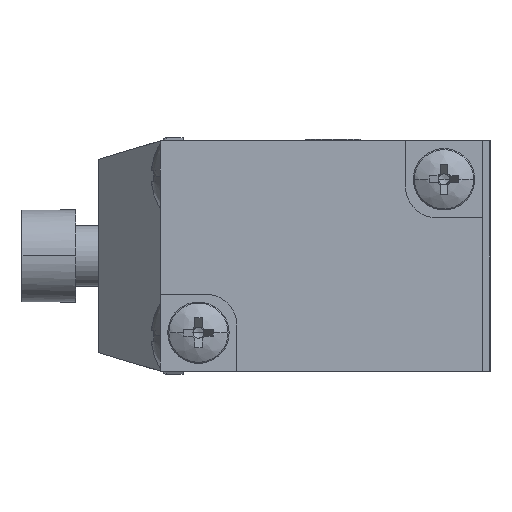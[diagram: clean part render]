
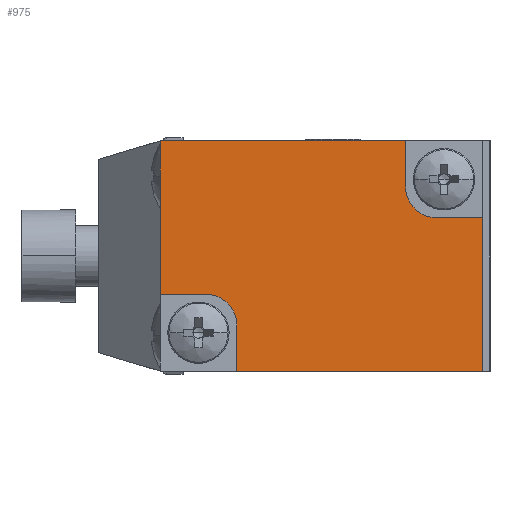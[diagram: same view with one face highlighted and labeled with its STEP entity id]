
A CAD part, left-side view. The second image highlights one B-rep face of the part: STEP entity #975.
In plain terms, the highlighted planar face has unit normal (-1, 0, 0).
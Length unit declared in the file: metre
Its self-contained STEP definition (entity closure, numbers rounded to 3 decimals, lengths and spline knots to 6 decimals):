
#42 = ORIENTED_EDGE ( 'NONE', *, *, #6886, .F. ) ;
#376 = CARTESIAN_POINT ( 'NONE',  ( -0.009, 0.016, 0. ) ) ;
#431 = DIRECTION ( 'NONE',  ( 0., 0., 1. ) ) ;
#451 = ORIENTED_EDGE ( 'NONE', *, *, #11279, .T. ) ;
#494 = VERTEX_POINT ( 'NONE', #7802 ) ;
#728 = EDGE_CURVE ( 'NONE', #4021, #8693, #1606, .T. ) ;
#975 = ADVANCED_FACE ( 'NONE', ( #8680 ), #2538, .F. ) ;
#989 = VERTEX_POINT ( 'NONE', #2178 ) ;
#1463 = ORIENTED_EDGE ( 'NONE', *, *, #5863, .T. ) ;
#1488 = CARTESIAN_POINT ( 'NONE',  ( -0.009, 0., 0.0075 ) ) ;
#1534 = LINE ( 'NONE', #376, #6499 ) ;
#1606 = LINE ( 'NONE', #10263, #5966 ) ;
#1609 = AXIS2_PLACEMENT_3D ( 'NONE', #3735, #3794, #3812 ) ;
#1813 = EDGE_CURVE ( 'NONE', #8560, #2256, #3492, .T. ) ;
#1876 = VECTOR ( 'NONE', #2618, 1. ) ;
#1977 = CARTESIAN_POINT ( 'NONE',  ( -0.009, 0.005, 0.006 ) ) ;
#2178 = CARTESIAN_POINT ( 'NONE',  ( -0.009, 0.021, -0.0025 ) ) ;
#2245 = VECTOR ( 'NONE', #3530, 1. ) ;
#2256 = VERTEX_POINT ( 'NONE', #9038 ) ;
#2313 = AXIS2_PLACEMENT_3D ( 'NONE', #1488, #2807, #2852 ) ;
#2538 = PLANE ( 'NONE',  #2313 ) ;
#2618 = DIRECTION ( 'NONE',  ( 0., 0., -1. ) ) ;
#2696 = VERTEX_POINT ( 'NONE', #6660 ) ;
#2736 = DIRECTION ( 'NONE',  ( 0., 0., 1. ) ) ;
#2807 = DIRECTION ( 'NONE',  ( 1., 0., 0. ) ) ;
#2852 = DIRECTION ( 'NONE',  ( 0., 0., -1. ) ) ;
#2984 = VERTEX_POINT ( 'NONE', #8625 ) ;
#3385 = CARTESIAN_POINT ( 'NONE',  ( -0.009, 0., 0.0025 ) ) ;
#3492 = CIRCLE ( 'NONE', #1609, 0.002 ) ;
#3522 = CARTESIAN_POINT ( 'NONE',  ( -0.009, 0.0105, -0.0075 ) ) ;
#3530 = DIRECTION ( 'NONE',  ( 0., 1., 0. ) ) ;
#3659 = ORIENTED_EDGE ( 'NONE', *, *, #6820, .T. ) ;
#3689 = ORIENTED_EDGE ( 'NONE', *, *, #1813, .F. ) ;
#3735 = CARTESIAN_POINT ( 'NONE',  ( -0.009, 0.018, -0.0045 ) ) ;
#3794 = DIRECTION ( 'NONE',  ( -1., 0., 0. ) ) ;
#3812 = DIRECTION ( 'NONE',  ( 0., 0., -1. ) ) ;
#3935 = ORIENTED_EDGE ( 'NONE', *, *, #8910, .F. ) ;
#3942 = EDGE_CURVE ( 'NONE', #10630, #989, #11804, .T. ) ;
#4021 = VERTEX_POINT ( 'NONE', #10227 ) ;
#4100 = CARTESIAN_POINT ( 'NONE',  ( -0.009, 0.021, 0.0075 ) ) ;
#4606 = VECTOR ( 'NONE', #11074, 1. ) ;
#4608 = LINE ( 'NONE', #3522, #11184 ) ;
#4741 = CIRCLE ( 'NONE', #7901, 0.002 ) ;
#4892 = LINE ( 'NONE', #10673, #4606 ) ;
#5530 = CARTESIAN_POINT ( 'NONE',  ( -0.009, 0.003, 0.0045 ) ) ;
#5726 = ORIENTED_EDGE ( 'NONE', *, *, #8779, .F. ) ;
#5757 = LINE ( 'NONE', #1977, #6952 ) ;
#5863 = EDGE_CURVE ( 'NONE', #494, #7415, #5757, .T. ) ;
#5966 = VECTOR ( 'NONE', #10387, 1. ) ;
#6480 = DIRECTION ( 'NONE',  ( 0., 0., -1. ) ) ;
#6499 = VECTOR ( 'NONE', #431, 1. ) ;
#6541 = EDGE_LOOP ( 'NONE', ( #3659, #3935, #1463, #451, #7478, #10428, #3689, #42, #5726, #7204 ) ) ;
#6660 = CARTESIAN_POINT ( 'NONE',  ( -0.009, 0.016, -0.0075 ) ) ;
#6820 = EDGE_CURVE ( 'NONE', #8693, #2984, #4892, .T. ) ;
#6886 = EDGE_CURVE ( 'NONE', #2696, #8560, #1534, .T. ) ;
#6908 = CARTESIAN_POINT ( 'NONE',  ( -0.009, 0.016, -0.0045 ) ) ;
#6952 = VECTOR ( 'NONE', #2736, 1. ) ;
#7204 = ORIENTED_EDGE ( 'NONE', *, *, #728, .T. ) ;
#7370 = DIRECTION ( 'NONE',  ( 0., 1., 0. ) ) ;
#7415 = VERTEX_POINT ( 'NONE', #8578 ) ;
#7478 = ORIENTED_EDGE ( 'NONE', *, *, #3942, .T. ) ;
#7802 = CARTESIAN_POINT ( 'NONE',  ( -0.009, 0.005, 0.0045 ) ) ;
#7901 = AXIS2_PLACEMENT_3D ( 'NONE', #5530, #12073, #6480 ) ;
#8432 = LINE ( 'NONE', #9246, #10572 ) ;
#8560 = VERTEX_POINT ( 'NONE', #6908 ) ;
#8578 = CARTESIAN_POINT ( 'NONE',  ( -0.009, 0.005, 0.0075 ) ) ;
#8625 = CARTESIAN_POINT ( 'NONE',  ( -0.009, 0.003, 0.0025 ) ) ;
#8680 = FACE_OUTER_BOUND ( 'NONE', #6541, .T. ) ;
#8693 = VERTEX_POINT ( 'NONE', #3385 ) ;
#8779 = EDGE_CURVE ( 'NONE', #4021, #2696, #4608, .T. ) ;
#8910 = EDGE_CURVE ( 'NONE', #494, #2984, #4741, .T. ) ;
#9038 = CARTESIAN_POINT ( 'NONE',  ( -0.009, 0.018, -0.0025 ) ) ;
#9155 = DIRECTION ( 'NONE',  ( 0., 1., 0. ) ) ;
#9191 = CARTESIAN_POINT ( 'NONE',  ( -0.009, 0.021, 0. ) ) ;
#9246 = CARTESIAN_POINT ( 'NONE',  ( -0.009, 0.0105, 0.0075 ) ) ;
#9721 = LINE ( 'NONE', #10082, #2245 ) ;
#10082 = CARTESIAN_POINT ( 'NONE',  ( -0.009, 0.0105, -0.0025 ) ) ;
#10227 = CARTESIAN_POINT ( 'NONE',  ( -0.009, 0., -0.0075 ) ) ;
#10263 = CARTESIAN_POINT ( 'NONE',  ( -0.009, 0., 0. ) ) ;
#10387 = DIRECTION ( 'NONE',  ( 0., 0., 1. ) ) ;
#10428 = ORIENTED_EDGE ( 'NONE', *, *, #10845, .F. ) ;
#10572 = VECTOR ( 'NONE', #7370, 1. ) ;
#10630 = VERTEX_POINT ( 'NONE', #4100 ) ;
#10673 = CARTESIAN_POINT ( 'NONE',  ( -0.009, 0.0015, 0.0025 ) ) ;
#10845 = EDGE_CURVE ( 'NONE', #2256, #989, #9721, .T. ) ;
#11074 = DIRECTION ( 'NONE',  ( 0., 1., 0. ) ) ;
#11184 = VECTOR ( 'NONE', #9155, 1. ) ;
#11279 = EDGE_CURVE ( 'NONE', #7415, #10630, #8432, .T. ) ;
#11804 = LINE ( 'NONE', #9191, #1876 ) ;
#12073 = DIRECTION ( 'NONE',  ( -1., 0., 0. ) ) ;
